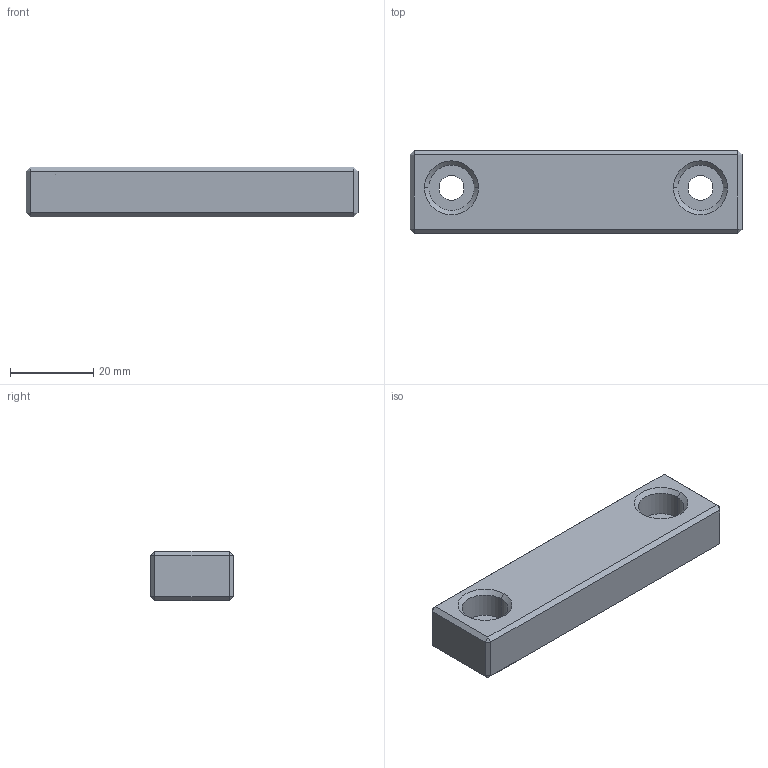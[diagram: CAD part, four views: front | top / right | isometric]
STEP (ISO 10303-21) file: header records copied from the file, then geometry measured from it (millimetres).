
FILE_DESCRIPTION (( 'STEP AP214' ), '1' );
FILE_NAME ('BR3143-20-12-80.STEP', '2020-06-30T08:35:59', ( '' ), ( '' ), 'SwSTEP 2.0', 'SolidWorks 2018', '' );
FILE_SCHEMA (( 'AUTOMOTIVE_DESIGN' ));
Length unit declared in the file: millimetre
Products named in the file (1): BR3143-20-12-80
Bounding box: 80 x 20 x 12 mm (x, y, z)
Volume: 17310.5 mm3; surface area: 5836.4 mm2
Topology: 1 solids, 1 shells, 44 faces, 88 edges, 48 vertices
Faces by surface type: plane 28, cone 8, cylinder 8
Entity records: 1142 total; most frequent: DIRECTION 202, CARTESIAN_POINT 181, ORIENTED_EDGE 176, EDGE_CURVE 88, AXIS2_PLACEMENT_3D 69, VECTOR 64, LINE 64, EDGE_LOOP 50
